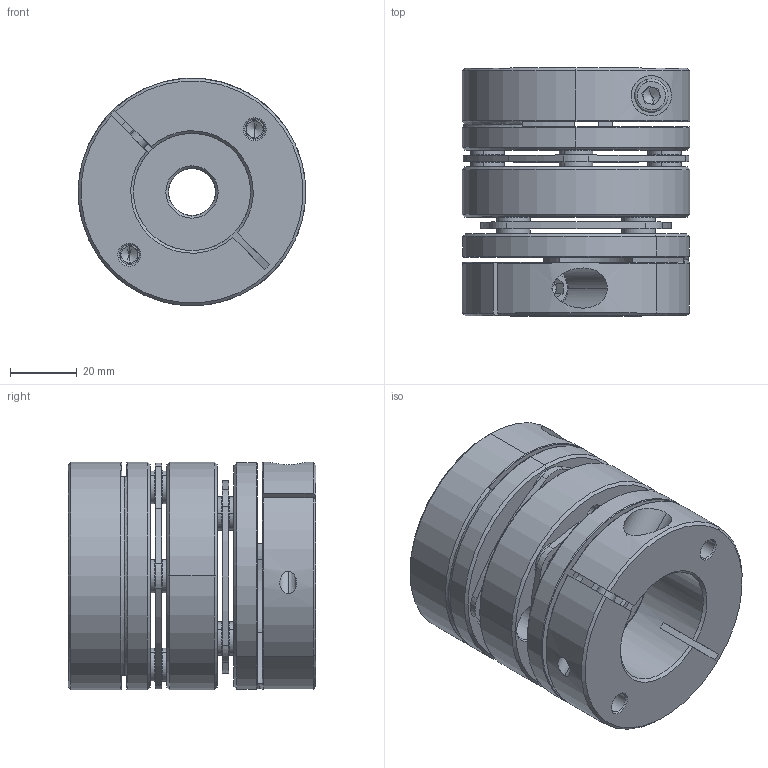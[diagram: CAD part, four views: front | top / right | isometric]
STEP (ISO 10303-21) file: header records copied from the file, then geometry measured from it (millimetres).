
FILE_DESCRIPTION (( 'STEP AP203' ), '1' );
FILE_NAME ('LD2-D68-14-35.STEP', '2021-10-26T08:16:20', ( '' ), ( '' ), 'SwSTEP 2.0', 'SolidWorks 2018', '' );
FILE_SCHEMA (( 'CONFIG_CONTROL_DESIGN' ));
Length unit declared in the file: millimetre
Products named in the file (2): 錨璃102^LD2-D68; LD2-D68-14-35
Assembly tree (1 placements, depth 2):
  LD2-D68-14-35
    錨璃102^LD2-D68
Bounding box: 68 x 74 x 68 mm (x, y, z)
Volume: 178554.9 mm3; surface area: 63468.3 mm2
Topology: 1 solids, 27 shells, 734 faces, 1712 edges, 1042 vertices
Faces by surface type: cylinder 256, cone 226, plane 222, torus 30
Entity records: 21554 total; most frequent: DIRECTION 4004, CARTESIAN_POINT 3937, ORIENTED_EDGE 3376, EDGE_CURVE 1688, AXIS2_PLACEMENT_3D 1625, VERTEX_POINT 1042, CIRCLE 887, EDGE_LOOP 870
